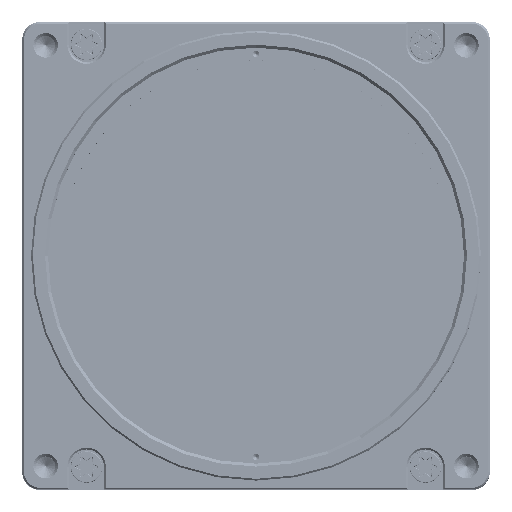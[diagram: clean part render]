
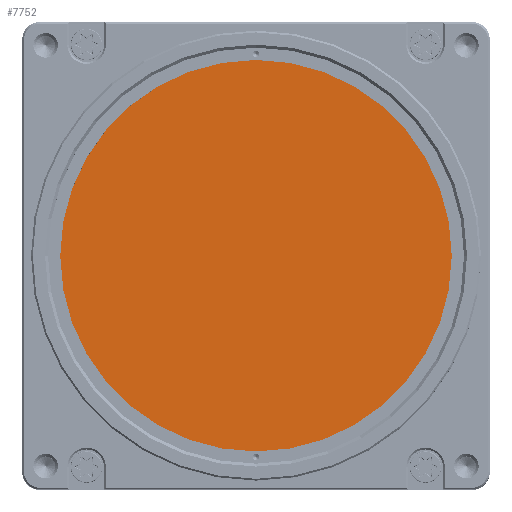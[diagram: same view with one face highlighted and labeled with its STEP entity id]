
A CAD part, top view. The second image highlights one B-rep face of the part: STEP entity #7752.
In plain terms, the highlighted planar face has unit normal (0, 0, 1).
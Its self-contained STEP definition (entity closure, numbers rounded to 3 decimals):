
#7752 = ADVANCED_FACE ( 'NONE', ( #448692 ), #429626, .T. ) ;
#44169 = DIRECTION ( 'NONE',  ( 0., 0., 1. ) ) ;
#72468 = DIRECTION ( 'NONE',  ( 0., 0., 1. ) ) ;
#75270 = CARTESIAN_POINT ( 'NONE',  ( 35.3, 0., 1. ) ) ;
#97952 = ORIENTED_EDGE ( 'NONE', *, *, #258891, .T. ) ;
#105531 = CIRCLE ( 'NONE', #120486, 35.3 ) ;
#117262 = VERTEX_POINT ( 'NONE', #75270 ) ;
#120486 = AXIS2_PLACEMENT_3D ( 'NONE', #256535, #44169, #298378 ) ;
#140189 = CARTESIAN_POINT ( 'NONE',  ( 0., 0., 1. ) ) ;
#157935 = EDGE_LOOP ( 'NONE', ( #97952 ) ) ;
#177653 = DIRECTION ( 'NONE',  ( 1., 0., 0. ) ) ;
#226999 = AXIS2_PLACEMENT_3D ( 'NONE', #140189, #72468, #177653 ) ;
#256535 = CARTESIAN_POINT ( 'NONE',  ( 0., 0., 1. ) ) ;
#258891 = EDGE_CURVE ( 'NONE', #117262, #117262, #105531, .T. ) ;
#298378 = DIRECTION ( 'NONE',  ( 1., 0., 0. ) ) ;
#429626 = PLANE ( 'NONE',  #226999 ) ;
#448692 = FACE_OUTER_BOUND ( 'NONE', #157935, .T. ) ;
